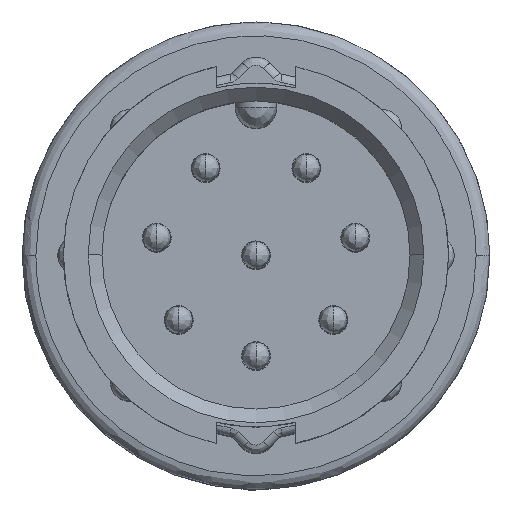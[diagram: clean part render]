
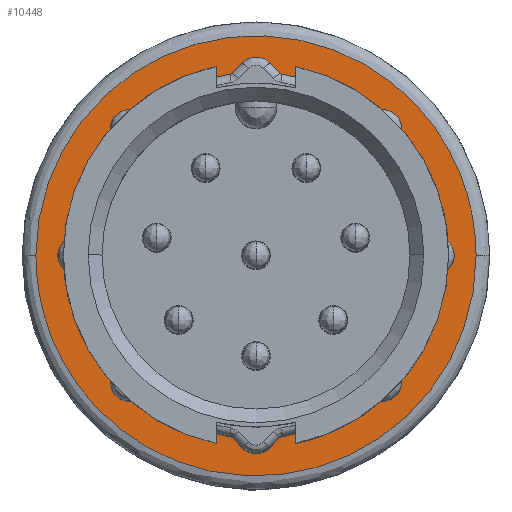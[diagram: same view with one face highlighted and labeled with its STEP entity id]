
A CAD part, top view. The second image highlights one B-rep face of the part: STEP entity #10448.
In plain terms, the highlighted planar face has unit normal (0, 0, 1).
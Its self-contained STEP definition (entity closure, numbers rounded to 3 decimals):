
#237 = CARTESIAN_POINT ( 'NONE',  ( 8., 0., -17.9 ) ) ;
#372 = ORIENTED_EDGE ( 'NONE', *, *, #28681, .F. ) ;
#786 = CARTESIAN_POINT ( 'NONE',  ( 1.7, -6.332, -17.9 ) ) ;
#1028 = CARTESIAN_POINT ( 'NONE',  ( 6.5, 0.427, -17.9 ) ) ;
#1066 = B_SPLINE_CURVE_WITH_KNOTS ( 'NONE', 3,
 ( #31064, #30702, #6707, #20046, #16836, #11524, #11862, #14181, #1382, #19857, #19522, #14357, #3703, #14880, #1210, #30886, #6364, #25045, #28396, #14531, #1028, #17372 ),
 .UNSPECIFIED., .F., .F.,
 ( 4, 2, 2, 2, 2, 2, 2, 2, 2, 2, 4 ),
 ( 0., 0.063, 0.125, 0.25, 0.375, 0.5, 0.625, 0.75, 0.875, 0.938, 1. ),
 .UNSPECIFIED. ) ;
#1139 = CARTESIAN_POINT ( 'NONE',  ( 6.5, 0., -17.9 ) ) ;
#1210 = CARTESIAN_POINT ( 'NONE',  ( 3.993, 5.199, -17.9 ) ) ;
#1382 = CARTESIAN_POINT ( 'NONE',  ( -3.275, 5.679, -17.9 ) ) ;
#1896 = EDGE_LOOP ( 'NONE', ( #32783, #10967 ) ) ;
#2929 = CARTESIAN_POINT ( 'NONE',  ( -8., 16., -17.9 ) ) ;
#3639 = CARTESIAN_POINT ( 'NONE',  ( 6.458, -0.85, -17.9 ) ) ;
#3703 = CARTESIAN_POINT ( 'NONE',  ( 1.699, 6.332, -17.9 ) ) ;
#3816 = CARTESIAN_POINT ( 'NONE',  ( 5.199, -3.993, -17.9 ) ) ;
#4163 = CARTESIAN_POINT ( 'NONE',  ( -0.853, -6.5, -17.9 ) ) ;
#5646 =( BOUNDED_CURVE ( )  B_SPLINE_CURVE ( 3, ( #27278, #2929, #13767, #8607 ),
 .UNSPECIFIED., .F., .T. ) 
 B_SPLINE_CURVE_WITH_KNOTS ( ( 4, 4 ),
 ( 0., 1. ),
 .UNSPECIFIED. ) 
 CURVE ( )  GEOMETRIC_REPRESENTATION_ITEM ( )  RATIONAL_B_SPLINE_CURVE ( ( 1., 0.333, 0.333, 1. ) ) 
 REPRESENTATION_ITEM ( '' )  );
#5736 = AXIS2_PLACEMENT_3D ( 'NONE', #13180, #28994, #32195 ) ;
#6120 = CARTESIAN_POINT ( 'NONE',  ( -3.993, -5.199, -17.9 ) ) ;
#6293 = CARTESIAN_POINT ( 'NONE',  ( 3.993, -5.199, -17.9 ) ) ;
#6364 = CARTESIAN_POINT ( 'NONE',  ( 5.679, 3.275, -17.9 ) ) ;
#6478 = CARTESIAN_POINT ( 'NONE',  ( -6.292, -1.686, -17.9 ) ) ;
#6645 = CARTESIAN_POINT ( 'NONE',  ( -5.679, -3.275, -17.9 ) ) ;
#6707 = CARTESIAN_POINT ( 'NONE',  ( -6.458, 0.85, -17.9 ) ) ;
#7309 =( BOUNDED_CURVE ( )  B_SPLINE_CURVE ( 3, ( #8743, #17080, #11235, #19587 ),
 .UNSPECIFIED., .F., .F. ) 
 B_SPLINE_CURVE_WITH_KNOTS ( ( 4, 4 ),
 ( 0., 1. ),
 .UNSPECIFIED. ) 
 CURVE ( )  GEOMETRIC_REPRESENTATION_ITEM ( )  RATIONAL_B_SPLINE_CURVE ( ( 1., 0.333, 0.333, 1. ) ) 
 REPRESENTATION_ITEM ( '' )  );
#8128 = EDGE_CURVE ( 'NONE', #18779, #12673, #5646, .T. ) ;
#8607 = CARTESIAN_POINT ( 'NONE',  ( 8., 0., -17.9 ) ) ;
#8743 = CARTESIAN_POINT ( 'NONE',  ( 8., 0., -17.9 ) ) ;
#9136 = CARTESIAN_POINT ( 'NONE',  ( 6.292, -1.686, -17.9 ) ) ;
#9159 = CARTESIAN_POINT ( 'NONE',  ( 6.5, 0., -17.9 ) ) ;
#10448 = ADVANCED_FACE ( 'NONE', ( #29346, #20990 ), #26518, .T. ) ;
#10967 = ORIENTED_EDGE ( 'NONE', *, *, #23932, .T. ) ;
#11235 = CARTESIAN_POINT ( 'NONE',  ( -8., -16., -17.9 ) ) ;
#11524 = CARTESIAN_POINT ( 'NONE',  ( -5.679, 3.275, -17.9 ) ) ;
#11797 = CARTESIAN_POINT ( 'NONE',  ( 5.679, -3.275, -17.9 ) ) ;
#11862 = CARTESIAN_POINT ( 'NONE',  ( -5.199, 3.993, -17.9 ) ) ;
#12673 = VERTEX_POINT ( 'NONE', #237 ) ;
#13039 = EDGE_CURVE ( 'NONE', #27409, #32796, #1066, .T. ) ;
#13180 = CARTESIAN_POINT ( 'NONE',  ( -8.32, -8.322, -17.9 ) ) ;
#13767 = CARTESIAN_POINT ( 'NONE',  ( 8., 16., -17.9 ) ) ;
#14181 = CARTESIAN_POINT ( 'NONE',  ( -3.993, 5.199, -17.9 ) ) ;
#14292 = CARTESIAN_POINT ( 'NONE',  ( 6.5, -0.427, -17.9 ) ) ;
#14357 = CARTESIAN_POINT ( 'NONE',  ( 0.853, 6.5, -17.9 ) ) ;
#14465 = CARTESIAN_POINT ( 'NONE',  ( -6.168, -2.093, -17.9 ) ) ;
#14531 = CARTESIAN_POINT ( 'NONE',  ( 6.458, 0.85, -17.9 ) ) ;
#14638 = CARTESIAN_POINT ( 'NONE',  ( -1.699, -6.332, -17.9 ) ) ;
#14880 = CARTESIAN_POINT ( 'NONE',  ( 3.275, 5.679, -17.9 ) ) ;
#16836 = CARTESIAN_POINT ( 'NONE',  ( -6.168, 2.093, -17.9 ) ) ;
#17080 = CARTESIAN_POINT ( 'NONE',  ( 8., -16., -17.9 ) ) ;
#17307 = CARTESIAN_POINT ( 'NONE',  ( -6.458, -0.85, -17.9 ) ) ;
#17372 = CARTESIAN_POINT ( 'NONE',  ( 6.5, 0., -17.9 ) ) ;
#18779 = VERTEX_POINT ( 'NONE', #27781 ) ;
#19522 = CARTESIAN_POINT ( 'NONE',  ( -0.853, 6.5, -17.9 ) ) ;
#19587 = CARTESIAN_POINT ( 'NONE',  ( -8., 0., -17.9 ) ) ;
#19857 = CARTESIAN_POINT ( 'NONE',  ( -1.7, 6.332, -17.9 ) ) ;
#19975 = CARTESIAN_POINT ( 'NONE',  ( -3.275, -5.679, -17.9 ) ) ;
#20046 = CARTESIAN_POINT ( 'NONE',  ( -6.292, 1.686, -17.9 ) ) ;
#20151 = CARTESIAN_POINT ( 'NONE',  ( -6.5, 0., -17.9 ) ) ;
#20153 = ORIENTED_EDGE ( 'NONE', *, *, #8128, .F. ) ;
#20319 = CARTESIAN_POINT ( 'NONE',  ( 3.275, -5.679, -17.9 ) ) ;
#20990 = FACE_OUTER_BOUND ( 'NONE', #28276, .T. ) ;
#23932 = EDGE_CURVE ( 'NONE', #32796, #27409, #34117, .T. ) ;
#25045 = CARTESIAN_POINT ( 'NONE',  ( 6.168, 2.093, -17.9 ) ) ;
#25159 = CARTESIAN_POINT ( 'NONE',  ( 6.168, -2.093, -17.9 ) ) ;
#26518 = PLANE ( 'NONE',  #5736 ) ;
#27278 = CARTESIAN_POINT ( 'NONE',  ( -8., 0., -17.9 ) ) ;
#27409 = VERTEX_POINT ( 'NONE', #30854 ) ;
#27781 = CARTESIAN_POINT ( 'NONE',  ( -8., 0., -17.9 ) ) ;
#28159 = CARTESIAN_POINT ( 'NONE',  ( -6.5, -0.427, -17.9 ) ) ;
#28276 = EDGE_LOOP ( 'NONE', ( #372, #20153 ) ) ;
#28396 = CARTESIAN_POINT ( 'NONE',  ( 6.292, 1.686, -17.9 ) ) ;
#28681 = EDGE_CURVE ( 'NONE', #12673, #18779, #7309, .T. ) ;
#28994 = DIRECTION ( 'NONE',  ( 0., 0., 1. ) ) ;
#29346 = FACE_BOUND ( 'NONE', #1896, .T. ) ;
#30702 = CARTESIAN_POINT ( 'NONE',  ( -6.5, 0.427, -17.9 ) ) ;
#30819 = CARTESIAN_POINT ( 'NONE',  ( -5.199, -3.993, -17.9 ) ) ;
#30854 = CARTESIAN_POINT ( 'NONE',  ( -6.5, 0., -17.9 ) ) ;
#30886 = CARTESIAN_POINT ( 'NONE',  ( 5.199, 3.993, -17.9 ) ) ;
#31064 = CARTESIAN_POINT ( 'NONE',  ( -6.5, 0., -17.9 ) ) ;
#32195 = DIRECTION ( 'NONE',  ( 1., 0., 0. ) ) ;
#32783 = ORIENTED_EDGE ( 'NONE', *, *, #13039, .T. ) ;
#32796 = VERTEX_POINT ( 'NONE', #9159 ) ;
#33486 = CARTESIAN_POINT ( 'NONE',  ( 0.853, -6.5, -17.9 ) ) ;
#34117 = B_SPLINE_CURVE_WITH_KNOTS ( 'NONE', 3,
 ( #1139, #14292, #3639, #9136, #25159, #11797, #3816, #6293, #20319, #786, #33486, #4163, #14638, #19975, #6120, #30819, #6645, #14465, #6478, #17307, #28159, #20151 ),
 .UNSPECIFIED., .F., .F.,
 ( 4, 2, 2, 2, 2, 2, 2, 2, 2, 2, 4 ),
 ( 0., 0.062, 0.125, 0.25, 0.375, 0.5, 0.625, 0.75, 0.875, 0.937, 1. ),
 .UNSPECIFIED. ) ;
